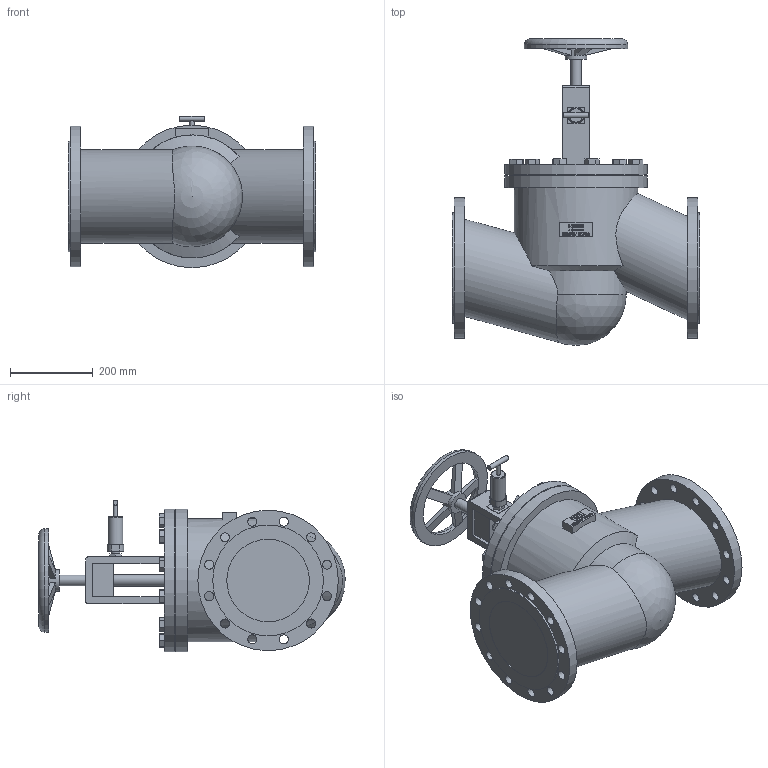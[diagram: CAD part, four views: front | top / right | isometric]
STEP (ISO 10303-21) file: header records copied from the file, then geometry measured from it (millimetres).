
FILE_DESCRIPTION(/* description */ (''),/* implementation_level */ '2;1');
FILE_NAME(/* name */ '100-247HP-DN200-PN16.stp',/* time_stamp */ '2024-07-08T21:54:21+02:00',/* author */ ('roger.thijssen'),/* organization */ (''),/* preprocessor_version */ 'ST-DEVELOPER v20',/* originating_system */ 'Autodesk Inventor 2024',/* authorisation */ '');
FILE_SCHEMA (('AUTOMOTIVE_DESIGN { 1 0 10303 214 3 1 1 }'));
Length unit declared in the file: millimetre
Products named in the file (1): 100-247HP-DN200-PN16
Bounding box: 600 x 742.5 x 366.5 mm (x, y, z)
Volume: 45108388.4 mm3; surface area: 1326661.7 mm2
Topology: 1 solids, 1 shells, 431 faces, 1138 edges, 758 vertices
Faces by surface type: plane 287, bspline 76, cylinder 63, cone 3, torus 1, sphere 1
Full cylindrical faces by diameter (mm): 10 x1, 12 x1, 21 x1, 22 x24, 26 x1, 28 x1, 36 x1, 52 x1, 190 x1, 200 x2, 227 x2, 250 x1, 268 x2, 270 x1, 298 x1, 340 x2, 345 x2
Entity records: 14793 total; most frequent: CARTESIAN_POINT 3875, ORIENTED_EDGE 2274, DIRECTION 1822, EDGE_CURVE 1137, LINE 798, VECTOR 798, VERTEX_POINT 758, EDGE_LOOP 543
